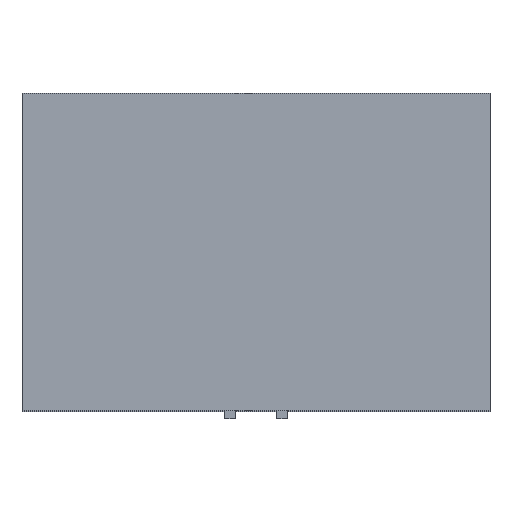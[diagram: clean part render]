
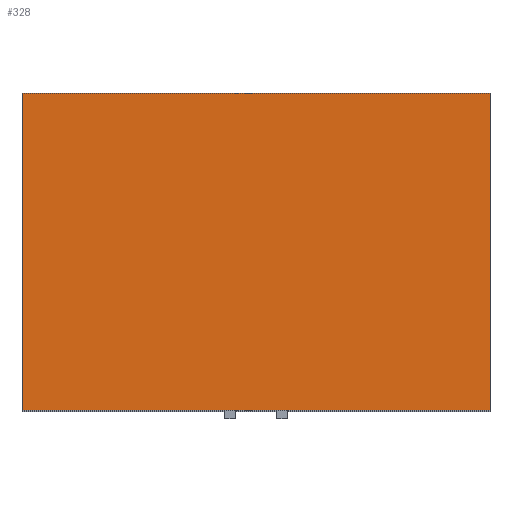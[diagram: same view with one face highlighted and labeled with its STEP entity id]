
A CAD part, top view. The second image highlights one B-rep face of the part: STEP entity #328.
In plain terms, the highlighted planar face has unit normal (0, 0, 1).
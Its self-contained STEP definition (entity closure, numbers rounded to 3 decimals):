
#328=ADVANCED_FACE('',(#530),#2822,.T.);
#530=FACE_OUTER_BOUND('',#738,.T.);
#738=EDGE_LOOP('',(#1361,#1362,#1363,#1364));
#1361=ORIENTED_EDGE('',*,*,#1915,.F.);
#1362=ORIENTED_EDGE('',*,*,#1918,.F.);
#1363=ORIENTED_EDGE('',*,*,#1910,.F.);
#1364=ORIENTED_EDGE('',*,*,#1919,.F.);
#1910=EDGE_CURVE('',#2594,#2595,#2290,.T.);
#1915=EDGE_CURVE('',#2599,#2600,#2295,.T.);
#1918=EDGE_CURVE('',#2595,#2599,#2298,.T.);
#1919=EDGE_CURVE('',#2600,#2594,#2299,.T.);
#2290=B_SPLINE_CURVE_WITH_KNOTS('',1,(#4311,#4312),.UNSPECIFIED.,.F.,.F.,
(2,2),(0.,650.),.UNSPECIFIED.);
#2295=B_SPLINE_CURVE_WITH_KNOTS('',1,(#4321,#4322),.UNSPECIFIED.,.F.,.F.,
(2,2),(0.,650.),.UNSPECIFIED.);
#2298=B_SPLINE_CURVE_WITH_KNOTS('',1,(#4327,#4328),.UNSPECIFIED.,.F.,.F.,
(2,2),(0.,940.),.UNSPECIFIED.);
#2299=B_SPLINE_CURVE_WITH_KNOTS('',1,(#4329,#4330),.UNSPECIFIED.,.F.,.F.,
(2,2),(0.,940.),.UNSPECIFIED.);
#2594=VERTEX_POINT('',#4302);
#2595=VERTEX_POINT('',#4303);
#2599=VERTEX_POINT('',#4307);
#2600=VERTEX_POINT('',#4308);
#2822=PLANE('',#3100);
#3100=AXIS2_PLACEMENT_3D('',#4300,#3307,$);
#3307=DIRECTION('',(0.,0.,1.));
#4300=CARTESIAN_POINT('',(-450.,-610.,-134.));
#4302=CARTESIAN_POINT('',(450.,0.,-134.));
#4303=CARTESIAN_POINT('',(450.,-610.,-134.));
#4307=CARTESIAN_POINT('',(-450.,-610.,-134.));
#4308=CARTESIAN_POINT('',(-450.,0.,-134.));
#4311=CARTESIAN_POINT('',(450.,0.,-134.));
#4312=CARTESIAN_POINT('',(450.,-610.,-134.));
#4321=CARTESIAN_POINT('',(-450.,-610.,-134.));
#4322=CARTESIAN_POINT('',(-450.,0.,-134.));
#4327=CARTESIAN_POINT('',(450.,-610.,-134.));
#4328=CARTESIAN_POINT('',(-450.,-610.,-134.));
#4329=CARTESIAN_POINT('',(-450.,0.,-134.));
#4330=CARTESIAN_POINT('',(450.,0.,-134.));
